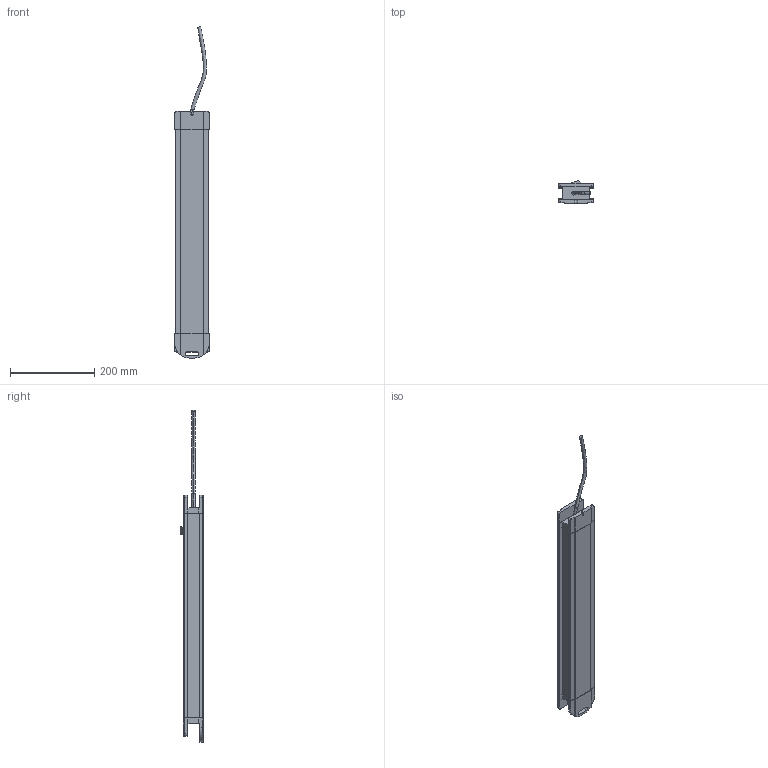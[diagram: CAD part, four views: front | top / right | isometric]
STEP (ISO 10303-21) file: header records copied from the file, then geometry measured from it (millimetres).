
FILE_DESCRIPTION (( 'STEP AP203' ), '1' );
FILE_NAME ('1601576_0.STEP', '2026-01-13T15:05:33', ( '' ), ( '' ), 'SwSTEP 2.0', 'SolidWorks 2024', '' );
FILE_SCHEMA (( 'CONFIG_CONTROL_DESIGN' ));
Length unit declared in the file: millimetre
Products named in the file (1): 1601576_0
Bounding box: 82 x 55 x 787.26 mm (x, y, z)
Volume: 1463098.5 mm3; surface area: 206587.8 mm2
Topology: 2 solids, 2 shells, 129 faces, 335 edges, 223 vertices
Faces by surface type: plane 93, cylinder 31, bspline 5
Entity records: 4619 total; most frequent: CARTESIAN_POINT 1346, ORIENTED_EDGE 670, DIRECTION 635, EDGE_CURVE 335, LINE 257, VECTOR 257, VERTEX_POINT 223, AXIS2_PLACEMENT_3D 189
